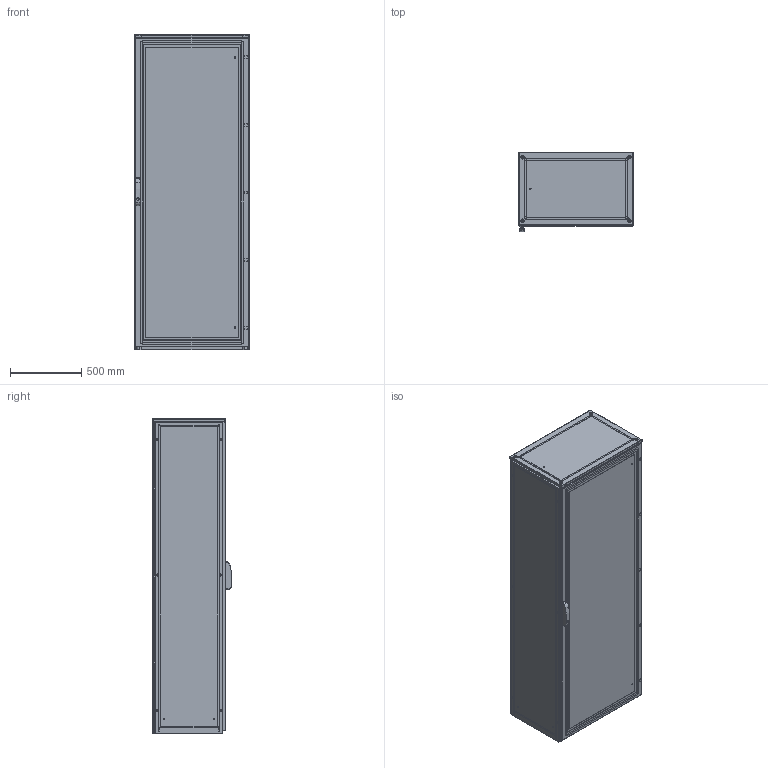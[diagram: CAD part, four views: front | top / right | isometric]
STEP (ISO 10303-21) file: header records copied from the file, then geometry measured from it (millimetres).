
FILE_DESCRIPTION(/* description */ ('STEP AP214'),/* implementation_level */ '2;1');
FILE_NAME(/* name */ 'ENUX082205PR-LOD350',/* time_stamp */ '2025-10-03T13:24:52+02:00',/* author */ ('License CC BY-ND 4.0'),/* organization */ ('CADENAS'),/* preprocessor_version */ 'ST-DEVELOPER v19.3',/* originating_system */ 'PARTsolutions',/* authorisation */ ' ');
FILE_SCHEMA (('AUTOMOTIVE_DESIGN {1 0 10303 214 3 1 1}'));
Length unit declared in the file: millimetre
Products named in the file (10): ENUX082205PR-LOD350; ENUX082205PR-LOD350_CON; ENUX082205PR-LOD350_floor1; ENUX082205PR-LOD350_floor2; Screw M12x30 architecture 350; ENUX082205PR-LOD350_side; ENUX082205PR-LOD350_top; ENUX082205PR-LOD350_back_door; ENUX082205PR-LOD350_door; ENUX082205PR-LOD350_handle
Assembly tree (15 placements, depth 2):
  ENUX082205PR-LOD350
    ENUX082205PR-LOD350_CON
    ENUX082205PR-LOD350_floor1  x2
    ENUX082205PR-LOD350_floor2  x2
    Screw M12x30 architecture 350  x4
    ENUX082205PR-LOD350_side  x2
    ENUX082205PR-LOD350_top
    ENUX082205PR-LOD350_back_door
    ENUX082205PR-LOD350_door
    ENUX082205PR-LOD350_handle
Bounding box: 812 x 557 x 2214.1 mm (x, y, z)
Volume: 21900751 mm3; surface area: 19366282.5 mm2
Topology: 15 solids, 15 shells, 1876 faces, 5305 edges, 3464 vertices
Faces by surface type: plane 912, cylinder 789, cone 83, torus 76, sphere 16
Full cylindrical faces by diameter (mm): 4.5 x156, 6 x14, 6.8 x8, 9 x9, 12 x16, 13 x4, 18 x1, 21 x4
Entity records: 51707 total; most frequent: DIRECTION 8959, CARTESIAN_POINT 8936, ORIENTED_EDGE 8400, EDGE_CURVE 4200, AXIS2_PLACEMENT_3D 3209, VERTEX_POINT 2945, LINE 2541, VECTOR 2541
